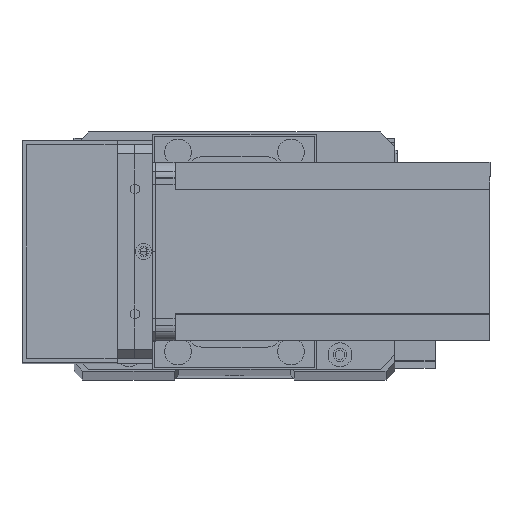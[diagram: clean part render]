
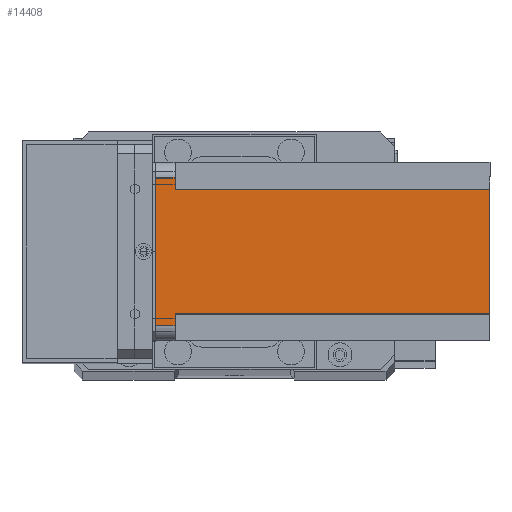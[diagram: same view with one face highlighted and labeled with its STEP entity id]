
A CAD part, top view. The second image highlights one B-rep face of the part: STEP entity #14408.
In plain terms, the highlighted planar face has unit normal (0, 0, 1) as drawn and (1, 0, 0) by its records, which use the part's own axes.
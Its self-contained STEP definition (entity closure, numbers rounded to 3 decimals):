
#25 = DIRECTION ( 'NONE',  ( 0., 0., 1. ) ) ;
#175 = CARTESIAN_POINT ( 'NONE',  ( 60., 0., -112.5 ) ) ;
#186 = LINE ( 'NONE', #5033, #11822 ) ;
#213 = LINE ( 'NONE', #175, #19143 ) ;
#1237 = ORIENTED_EDGE ( 'NONE', *, *, #23036, .F. ) ;
#1428 = EDGE_CURVE ( 'NONE', #15150, #24764, #22337, .T. ) ;
#2424 = LINE ( 'NONE', #12392, #9770 ) ;
#2678 = CARTESIAN_POINT ( 'NONE',  ( 60., 5., -112.5 ) ) ;
#2817 = CARTESIAN_POINT ( 'NONE',  ( 60., 5., -6.5 ) ) ;
#2991 = VECTOR ( 'NONE', #28237, 1000. ) ;
#4201 = DIRECTION ( 'NONE',  ( 0., 1., 0. ) ) ;
#5033 = CARTESIAN_POINT ( 'NONE',  ( 60., 51., -112.5 ) ) ;
#5241 = CARTESIAN_POINT ( 'NONE',  ( 60., 55., -6.5 ) ) ;
#5733 = FACE_OUTER_BOUND ( 'NONE', #12745, .T. ) ;
#6465 = CARTESIAN_POINT ( 'NONE',  ( 60., 0., -112.5 ) ) ;
#6799 = VERTEX_POINT ( 'NONE', #23000 ) ;
#7779 = CARTESIAN_POINT ( 'NONE',  ( 60., 0., 0. ) ) ;
#8897 = EDGE_CURVE ( 'NONE', #28318, #11911, #213, .T. ) ;
#9439 = LINE ( 'NONE', #29994, #26744 ) ;
#9770 = VECTOR ( 'NONE', #25, 1000. ) ;
#10285 = EDGE_CURVE ( 'NONE', #6799, #18853, #9439, .T. ) ;
#11822 = VECTOR ( 'NONE', #29571, 1000. ) ;
#11911 = VERTEX_POINT ( 'NONE', #23981 ) ;
#12194 = LINE ( 'NONE', #7779, #12967 ) ;
#12392 = CARTESIAN_POINT ( 'NONE',  ( 60., 55., -112.5 ) ) ;
#12745 = EDGE_LOOP ( 'NONE', ( #28737, #31701, #1237, #29292, #21951, #30553, #14035, #20954 ) ) ;
#12967 = VECTOR ( 'NONE', #20057, 1000. ) ;
#14035 = ORIENTED_EDGE ( 'NONE', *, *, #8897, .T. ) ;
#14408 = ADVANCED_FACE ( 'NONE', ( #5733 ), #16469, .T. ) ;
#15150 = VERTEX_POINT ( 'NONE', #5241 ) ;
#15340 = LINE ( 'NONE', #23282, #2991 ) ;
#15427 = DIRECTION ( 'NONE',  ( 0., -1., 0. ) ) ;
#15494 = CARTESIAN_POINT ( 'NONE',  ( 60., 51., -6.5 ) ) ;
#16144 = CARTESIAN_POINT ( 'NONE',  ( 60., 60., -6.5 ) ) ;
#16469 = PLANE ( 'NONE',  #20159 ) ;
#17657 = CARTESIAN_POINT ( 'NONE',  ( 60., 9., -112.5 ) ) ;
#18282 = CARTESIAN_POINT ( 'NONE',  ( 60., 5., 0. ) ) ;
#18853 = VERTEX_POINT ( 'NONE', #2817 ) ;
#18961 = DIRECTION ( 'NONE',  ( 1., 0., 0. ) ) ;
#19143 = VECTOR ( 'NONE', #19948, 1000. ) ;
#19626 = VERTEX_POINT ( 'NONE', #18282 ) ;
#19948 = DIRECTION ( 'NONE',  ( 0., 1., 0. ) ) ;
#20057 = DIRECTION ( 'NONE',  ( 0., 1., 0. ) ) ;
#20159 = AXIS2_PLACEMENT_3D ( 'NONE', #6465, #18961, #4201 ) ;
#20874 = CARTESIAN_POINT ( 'NONE',  ( 60., 55., 0. ) ) ;
#20954 = ORIENTED_EDGE ( 'NONE', *, *, #21733, .F. ) ;
#21172 = EDGE_CURVE ( 'NONE', #19626, #18853, #28775, .T. ) ;
#21733 = EDGE_CURVE ( 'NONE', #24764, #11911, #186, .T. ) ;
#21951 = ORIENTED_EDGE ( 'NONE', *, *, #10285, .F. ) ;
#22337 = LINE ( 'NONE', #16144, #27326 ) ;
#23000 = CARTESIAN_POINT ( 'NONE',  ( 60., 9., -6.5 ) ) ;
#23036 = EDGE_CURVE ( 'NONE', #19626, #30671, #12194, .T. ) ;
#23282 = CARTESIAN_POINT ( 'NONE',  ( 60., 9., -112.5 ) ) ;
#23981 = CARTESIAN_POINT ( 'NONE',  ( 60., 51., -112.5 ) ) ;
#24613 = EDGE_CURVE ( 'NONE', #15150, #30671, #2424, .T. ) ;
#24764 = VERTEX_POINT ( 'NONE', #15494 ) ;
#26744 = VECTOR ( 'NONE', #27511, 1000. ) ;
#27326 = VECTOR ( 'NONE', #15427, 1000. ) ;
#27511 = DIRECTION ( 'NONE',  ( 0., -1., 0. ) ) ;
#28019 = VECTOR ( 'NONE', #29824, 1000. ) ;
#28237 = DIRECTION ( 'NONE',  ( 0., 0., 1. ) ) ;
#28318 = VERTEX_POINT ( 'NONE', #17657 ) ;
#28737 = ORIENTED_EDGE ( 'NONE', *, *, #1428, .F. ) ;
#28775 = LINE ( 'NONE', #2678, #28019 ) ;
#29292 = ORIENTED_EDGE ( 'NONE', *, *, #21172, .T. ) ;
#29571 = DIRECTION ( 'NONE',  ( 0., 0., -1. ) ) ;
#29704 = EDGE_CURVE ( 'NONE', #28318, #6799, #15340, .T. ) ;
#29824 = DIRECTION ( 'NONE',  ( 0., 0., -1. ) ) ;
#29994 = CARTESIAN_POINT ( 'NONE',  ( 60., 0., -6.5 ) ) ;
#30553 = ORIENTED_EDGE ( 'NONE', *, *, #29704, .F. ) ;
#30671 = VERTEX_POINT ( 'NONE', #20874 ) ;
#31701 = ORIENTED_EDGE ( 'NONE', *, *, #24613, .T. ) ;
